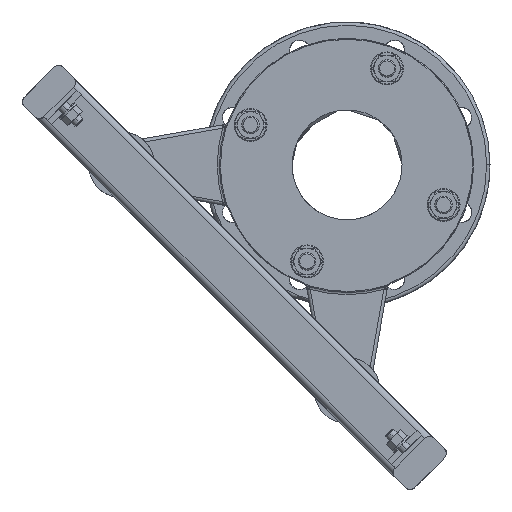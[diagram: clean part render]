
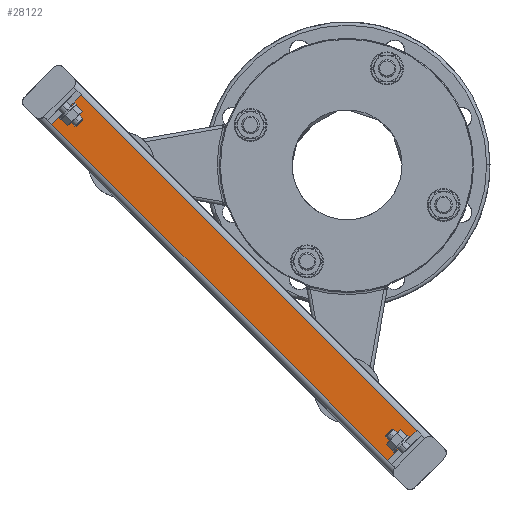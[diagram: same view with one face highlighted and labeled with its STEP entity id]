
A CAD part, front view. The second image highlights one B-rep face of the part: STEP entity #28122.
In plain terms, the highlighted planar face has unit normal (0, -1, 0).
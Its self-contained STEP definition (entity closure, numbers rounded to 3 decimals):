
#9084=DIRECTION('',(-0.707,0.,0.707));
#9085=VECTOR('',#9084,452.);
#9086=CARTESIAN_POINT('',(43.841,-82.,
-275.711));
#9087=LINE('',#9086,#9085);
#11358=DIRECTION('',(0.707,0.,0.707));
#11359=VECTOR('',#11358,38.);
#11360=CARTESIAN_POINT('',(43.841,-82.,
-275.711));
#11361=LINE('',#11360,#11359);
#11362=DIRECTION('',(0.707,0.,0.707));
#11363=VECTOR('',#11362,38.);
#11364=CARTESIAN_POINT('',(-275.772,-82.,
43.902));
#11365=LINE('',#11364,#11363);
#12225=DIRECTION('',(0.707,0.,-0.707));
#12226=VECTOR('',#12225,452.);
#12227=CARTESIAN_POINT('',(-248.902,-82.,
70.772));
#12228=LINE('',#12227,#12226);
#15680=CARTESIAN_POINT('',(-275.772,-82.,
43.902));
#15681=CARTESIAN_POINT('',(-248.902,-82.,
70.772));
#15682=VERTEX_POINT('',#15680);
#15683=VERTEX_POINT('',#15681);
#15738=CARTESIAN_POINT('',(43.841,-82.,
-275.711));
#15739=CARTESIAN_POINT('',(70.711,-82.,
-248.841));
#15740=VERTEX_POINT('',#15738);
#15741=VERTEX_POINT('',#15739);
#28109=CARTESIAN_POINT('',(-102.531,-82.,-102.469));
#28110=DIRECTION('',(0.,1.,0.));
#28111=DIRECTION('',(0.707,0.,0.707));
#28112=AXIS2_PLACEMENT_3D('',#28109,#28110,#28111);
#28113=PLANE('',#28112);
#28114=ORIENTED_EDGE('',*,*,#28096,.F.);
#28115=ORIENTED_EDGE('',*,*,#25112,.T.);
#28117=ORIENTED_EDGE('',*,*,#28116,.T.);
#28119=ORIENTED_EDGE('',*,*,#28118,.T.);
#28120=EDGE_LOOP('',(#28114,#28115,#28117,#28119));
#28121=FACE_OUTER_BOUND('',#28120,.F.);
#28122=ADVANCED_FACE('',(#28121),#28113,.F.);
#25112=EDGE_CURVE('',#15740,#15682,#9087,.T.);
#28096=EDGE_CURVE('',#15740,#15741,#11361,.T.);
#28116=EDGE_CURVE('',#15682,#15683,#11365,.T.);
#28118=EDGE_CURVE('',#15683,#15741,#12228,.T.);
